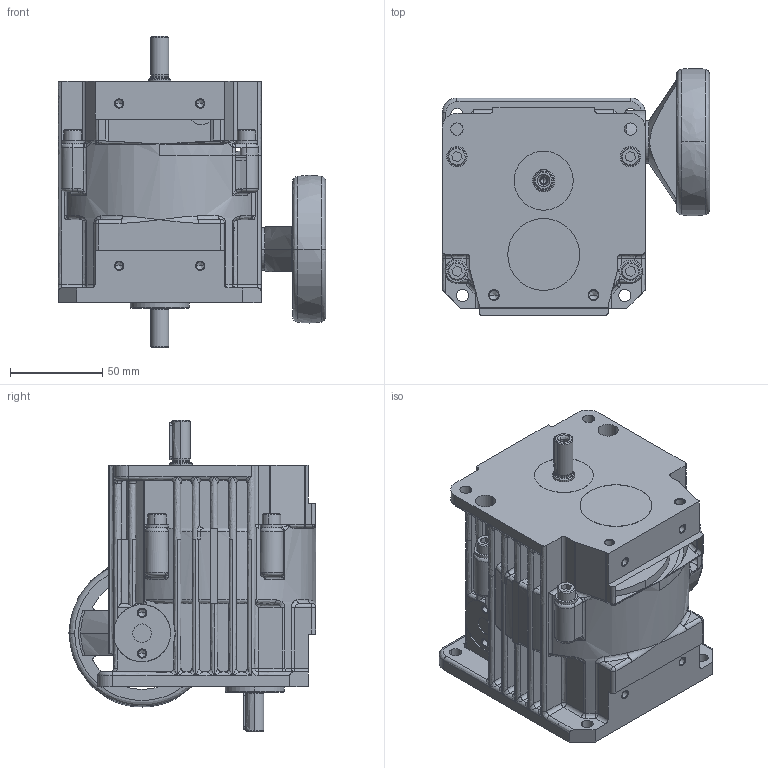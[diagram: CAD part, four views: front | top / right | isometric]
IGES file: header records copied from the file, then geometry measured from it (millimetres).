
Start section: Elysium IGES Interface
Global section: file name: G:\000_Arbeit\000_CAD\140_R4_Serie\01_ET_ZZ_US_SL\140_001_R4_Grundeinheit\R4_B14_HV_Freier_Antrieb_2D_3D.igs; native system: SolidDesigner 16.00A  16-Aug-2008; preprocessor: CoCreate IGES_3D V2.2; author: Unknown; organization: Unknown; date: 20081202.133539; units: millimetre
Bounding box: 145 x 134.04 x 169 mm (x, y, z)
Volume: 960935 mm3; surface area: 158791 mm2
Topology: 1 solids, 2 shells, 1057 faces, 2625 edges, 1572 vertices
Faces by surface type: bspline 1057
